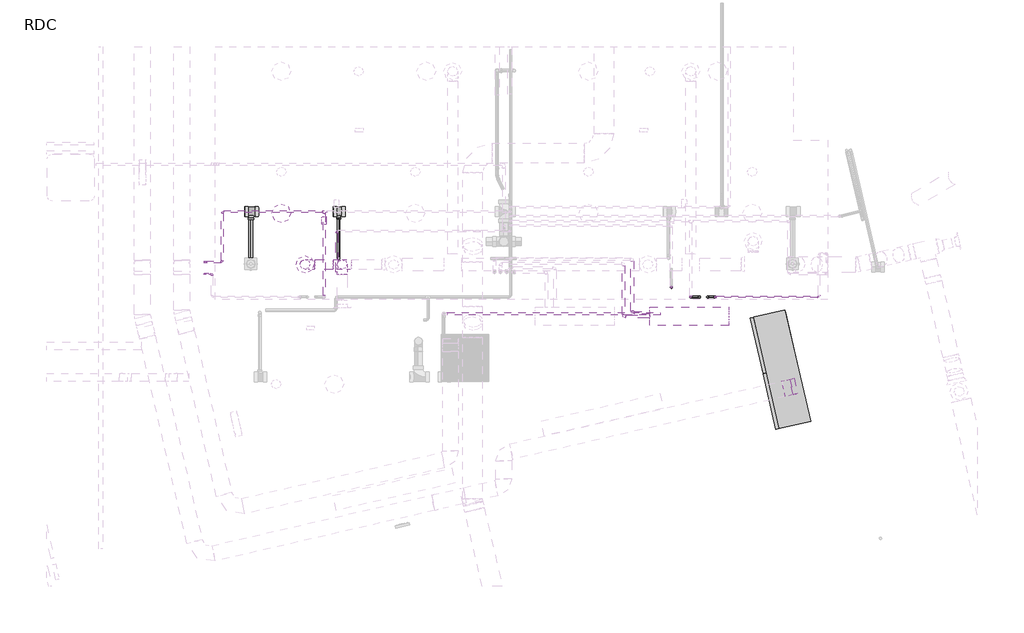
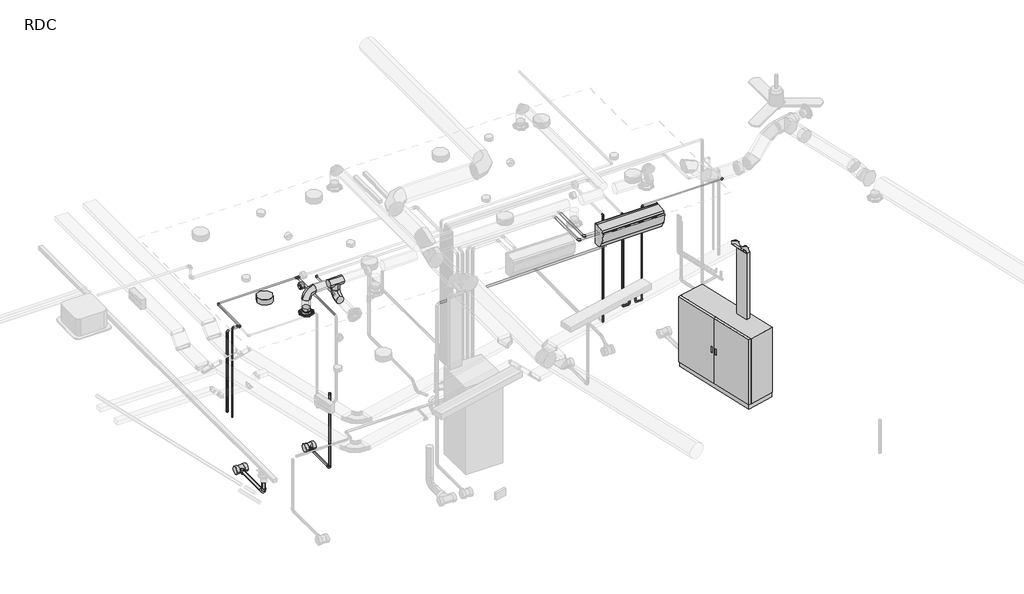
# One storey, part 10 of 15: 25 pipe segments, 22 pipe fittings, 3 duct fittings, 3 duct segments, 2 proxies, 1 air terminal, 1 alarm, 1 cable carrier fitting, 2 other elements.
"""IFC4 building model written with IfcOpenShell, lengths in millimetres."""

from ifc_helpers import new_model, si_unit, point, frame, frame_2d, origin, place, context, project, spatial, polyline, circle_curve, trimmed, segment, composite_curve, outline, extrude, transform, mapped, element, save
from ifc_brep_helpers import plane_surface, cylinder_surface, advanced_brep
from components import air_terminal_c84e8fe3, alarm_ff25f4bb, mechanical_equipment_eb6c6a63, electrical_equipment_138fd20d, standaard_62cd015a, coude_circulaire_1_d_f5cf0ac1, coude_circulaire_1_d_0da3bdd5, standard_07d20943, ai_luminaire_spot_downlight_a3_0014797d, coude_ff_pvc_u_standard_220f42cd, coude_ff_pvc_u_standard_9e274030, standard_a6eaa7f7, standard_e98945bd, standard_6e5039bf, standard_2678962f, standard_7de1e32a, standard_f2ba753d

model = new_model("IFC4")

# Units and contexts
model_context = context("Model", 3, world=origin())
ifc_project = project(units=[si_unit("LENGTHUNIT", "METRE", prefix="MILLI")], contexts=[model_context])

# Site, building, storey
site = spatial("IfcSite", under=ifc_project)
building = spatial("IfcBuilding", under=site)
storey = spatial("IfcBuildingStorey", under=building, Name="RDC", Elevation=0.0)

# Air terminal
placement = place(None, origin())
air_terminal_shape = air_terminal_c84e8fe3(model_context)
element("IfcAirTerminal", 1, ObjectType="AI_Bouche aération_Circulaire Extraction : ø125 mm", at=placement, inside=storey, context=model_context, shape_type="MappedRepresentation", body=[
    mapped(air_terminal_shape, transform((33320.6398841, 4264.9881845, 2500.0), x_axis=(2.293832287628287e-08, 0.9999999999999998, 0.0), y_axis=(-0.9999999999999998, 2.293832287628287e-08, 0.0), z_axis=(0.0, 0.0, 1.0))),
])

# Alarm
alarm_shape = alarm_ff25f4bb(model_context)
element("IfcAlarm", 2, ObjectType="AI_Incendie_Alarme incendie : Flash", at=placement, inside=storey, context=model_context, shape_type="MappedRepresentation", body=[
    mapped(alarm_shape, transform((33590.6545821, 4823.4725079, 2529.5993522), x_axis=(0.0, 1.0, 0.0), y_axis=(-1.0, 0.0, 0.0), z_axis=(0.0, 0.0, 1.0))),
])

# Proxies
mechanical_equipment_shape = mechanical_equipment_eb6c6a63(model_context)
element("IfcBuildingElementProxy", 3, Name="AI_Eqpmt genie clim_Unité intérieure de climatisation : AI_Eqpmt genie clim_Unité intérieure de climatisation", ObjectType="AI_Eqpmt genie clim_Unité intérieure de climatisation : AI_Eqpmt genie clim_Unité intérieure de climatisation", at=placement, inside=storey, context=model_context, shape_type="MappedRepresentation", body=[
    mapped(mechanical_equipment_shape, transform((38200.0243806, 3720.4697131, 2480.0), x_axis=(-1.0, 0.0, 0.0), y_axis=(0.0, -1.0, 0.0), z_axis=(0.0, 0.0, 1.0))),
])
electrical_equipment_shape = electrical_equipment_138fd20d(model_context)
element("IfcBuildingElementProxy", 4, Name="AI_Eqpmt elec_Armoire électrique LOD400 : TGBT 1200 x 450 x 1450", ObjectType="AI_Eqpmt elec_Armoire électrique LOD400 : TGBT 1200 x 450 x 1450", at=placement, inside=storey, context=model_context, shape_type="MappedRepresentation", body=[
    mapped(electrical_equipment_shape, transform((39578.1065587, 2978.0289437, 0.0), x_axis=(0.22495105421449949, -0.9743700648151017, 0.0), y_axis=(0.9743700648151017, 0.22495105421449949, 0.0), z_axis=(0.0, 0.0, 1.0))),
])

# Cable carrier fitting
standaard_shape = standaard_62cd015a(model_context)
element("IfcCableCarrierFitting", 5, ObjectType="AI_Raccord cdc_Coude desencdant : standaard", at=placement, inside=storey, context=model_context, shape_type="MappedRepresentation", body=[
    mapped(standaard_shape, transform((39527.0890044, 2713.5252654, 2470.0), x_axis=(0.9743711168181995, 0.22494649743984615, 0.0), y_axis=(0.0, 0.0, -1.0000000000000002), z_axis=(-0.22494649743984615, 0.9743711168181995, 0.0))),
])

# Cable carrier segment
element("IfcCableCarrierSegment", 6, ObjectType="Par défaut", at=placement, inside=storey, context=model_context, shape_type="SweptSolid", body=[
    extrude(outline(polyline([(39520.3525207, 2609.3397588), (39475.3632212, 2804.2139822), (39533.8254882, 2817.710772), (39578.8147877, 2622.8365487), (39520.3525207, 2609.3397588)])), frame((0.0, 0.0, 1200.0), z_axis=(0.0, 0.0, 1.0), x_axis=(1.0, 0.0, 0.0)), (0.0, 0.0, 1.0), 1139.0),
])

# Duct fittings
coude_circulaire_1_d_shape = coude_circulaire_1_d_f5cf0ac1(model_context)
element("IfcDuctFitting", 7, ObjectType="Coude circulaire : 1 D", at=placement, inside=storey, context=model_context, shape_type="MappedRepresentation", body=[
    mapped(coude_circulaire_1_d_shape, transform((33320.6398841, 4264.9881845, 2860.8181307), x_axis=(-0.9999999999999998, 2.2938323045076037e-08, 0.0), y_axis=(0.0, 0.0, -1.0), z_axis=(-2.2938323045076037e-08, -0.9999999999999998, 0.0))),
])
coude_circulaire_1_d_2_shape = coude_circulaire_1_d_0da3bdd5(model_context)
element("IfcDuctFitting", 8, ObjectType="Coude circulaire : 1 D", at=placement, inside=storey, context=model_context, shape_type="MappedRepresentation", body=[
    mapped(coude_circulaire_1_d_2_shape, transform((33792.8114631, 4263.3728908, 2618.4665859), x_axis=(-1.1090538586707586e-08, 1.0, 0.0), y_axis=(0.0, 0.0, 1.0000000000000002), z_axis=(1.0, 1.1090538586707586e-08, 0.0))),
])
standard_shape = standard_07d20943(model_context)
element("IfcDuctFitting", 9, ObjectType="Té circulaire : Standard", at=placement, inside=storey, context=model_context, shape_type="MappedRepresentation", body=[
    mapped(standard_shape, transform((33792.8114631, 4263.3728885, 2860.8181307), x_axis=(-0.9999999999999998, 2.293832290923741e-08, 0.0), y_axis=(0.0, 0.0, 1.0), z_axis=(2.293832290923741e-08, 0.9999999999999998, 0.0))),
])

# Duct segments
element("IfcDuctSegment", 10, ObjectType="Circulaire - Té", at=placement, inside=storey, context=model_context, shape_type="SweptSolid", body=[
    extrude(outline(composite_curve([segment(trimmed(circle_curve(frame_2d((33320.6398841, 4264.9881845)), 62.5), [point((33320.6398841, 4202.4881845))], [point((33258.1398841, 4264.9881845))], False, "CARTESIAN"), True, "CONTINUOUS"), segment(trimmed(circle_curve(frame_2d((33320.6398841, 4264.9881845)), 62.5), [point((33258.1398841, 4264.9881845))], [point((33320.6398841, 4327.4881845))], False, "CARTESIAN"), True, "CONTINUOUS"), segment(trimmed(circle_curve(frame_2d((33320.6398841, 4264.9881845)), 62.5), [point((33320.6398841, 4327.4881845))], [point((33383.1398841, 4264.9881845))], False, "CARTESIAN"), True, "CONTINUOUS"), segment(trimmed(circle_curve(frame_2d((33320.6398841, 4264.9881845)), 62.5), [point((33383.1398841, 4264.9881845))], [point((33320.6398841, 4202.4881845))], False, "CARTESIAN"), True, "CONTINUOUS")], self_intersect=False)), frame((0.0, 0.0, 2586.6), z_axis=(0.0, 0.0, 1.0), x_axis=(1.0, 0.0, 0.0)), (0.0, 0.0, 1.0), 149.2181307),
])
element("IfcDuctSegment", 11, ObjectType="Circulaire - Té", at=placement, inside=storey, context=model_context, shape_type="SweptSolid", body=[
    extrude(outline(composite_curve([segment(trimmed(circle_curve(frame_2d((0.0, 62.5)), 62.5), [point((62.5, 62.5))], [point((0.0, 0.0))], False, "CARTESIAN"), True, "CONTINUOUS"), segment(trimmed(circle_curve(frame_2d((0.0, 62.5)), 62.5), [point((0.0, 0.0))], [point((-62.5, 62.5))], False, "CARTESIAN"), True, "CONTINUOUS"), segment(trimmed(circle_curve(frame_2d((0.0, 62.5)), 62.5), [point((-62.5, 62.5))], [point((0.0, 125.0))], False, "CARTESIAN"), True, "CONTINUOUS"), segment(trimmed(circle_curve(frame_2d((0.0, 62.5)), 62.5), [point((0.0, 125.0))], [point((62.5, 62.5))], False, "CARTESIAN"), True, "CONTINUOUS")], self_intersect=False)), frame((33680.3114631, 4263.3728911, 2923.3181307), z_axis=(-0.9999763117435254, 0.006883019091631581, 0.0), x_axis=(0.006883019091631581, 0.9999763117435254, 0.0)), (0.0, 0.0, 1.0), 234.6771381),
])
element("IfcDuctSegment", 12, ObjectType="Circulaire - Té", at=placement, inside=storey, context=model_context, shape_type="SweptSolid", body=[
    extrude(outline(composite_curve([segment(trimmed(circle_curve(frame_2d((0.0, 62.5)), 62.5), [point((-62.5, 62.5))], [point((0.0, 125.0))], False, "CARTESIAN"), True, "CONTINUOUS"), segment(trimmed(circle_curve(frame_2d((0.0, 62.5)), 62.5), [point((0.0, 125.0))], [point((62.5, 62.5))], False, "CARTESIAN"), True, "CONTINUOUS"), segment(trimmed(circle_curve(frame_2d((0.0, 62.5)), 62.5), [point((62.5, 62.5))], [point((0.0, 0.0))], False, "CARTESIAN"), True, "CONTINUOUS"), segment(trimmed(circle_curve(frame_2d((0.0, 62.5)), 62.5), [point((0.0, 0.0))], [point((-62.5, 62.5))], False, "CARTESIAN"), True, "CONTINUOUS")], self_intersect=False)), frame((33792.8114631, 4200.8728886, 2743.466587), z_axis=(0.0, -1.719403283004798e-08, 0.9999999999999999), x_axis=(1.0, 0.0, 0.0)), (0.0, 0.0, 1.0), 4.8515426),
])

# Light fixture
ai_luminaire_spot_downlight_a3_shape = ai_luminaire_spot_downlight_a3_0014797d(model_context)
element("IfcLightFixture", 13, ObjectType="AI_Luminaire_Spot Downlight : A4", at=placement, inside=storey, context=model_context, shape_type="MappedRepresentation", body=[
    mapped(ai_luminaire_spot_downlight_a3_shape, transform((33019.4683012, 4914.7404412, 2500.0), x_axis=(1.0, 0.0, 0.0), y_axis=(0.0, 1.0, 0.0), z_axis=(0.0, 0.0, 1.0))),
])

# Pipe fittings
coude_ff_pvc_u_standard_shape = coude_ff_pvc_u_standard_220f42cd(model_context)
element("IfcPipeFitting", 14, ObjectType="Coude - FF - PVC-U : Standard", at=placement, inside=storey, context=model_context, shape_type="MappedRepresentation", body=[
    mapped(coude_ff_pvc_u_standard_shape, transform((32632.2955586, 4271.5849216, -359.4993917), x_axis=(0.0, 0.0, -1.0), y_axis=(0.0, 1.0, 0.0), z_axis=(1.0, 0.0, 0.0))),
])
coude_ff_pvc_u_standard_2_shape = coude_ff_pvc_u_standard_9e274030(model_context)
element("IfcPipeFitting", 15, ObjectType="Coude - FF - PVC-U : Standard", at=placement, inside=storey, context=model_context, shape_type="MappedRepresentation", body=[
    mapped(coude_ff_pvc_u_standard_2_shape, transform((33746.3092078, 4344.9881643, -371.5415484), x_axis=(0.0, 0.0, -1.0), y_axis=(0.0, 1.0, 0.0), z_axis=(1.0, 0.0, 0.0))),
])
standard_2_shape = standard_a6eaa7f7(model_context)
element("IfcPipeFitting", 16, ObjectType="EG-RCAN Té sanitaire de réduction - PVC - Nom. 40 - DWV : Standard", at=placement, inside=storey, context=model_context, shape_type="MappedRepresentation", body=[
    mapped(standard_2_shape, transform((32632.2955586, 4937.4862635, -359.2606712), x_axis=(-0.9999500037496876, 0.0, 0.00999950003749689), y_axis=(3.5845648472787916e-06, 0.9999999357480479, 0.0003584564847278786), z_axis=(-0.009999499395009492, 0.0003584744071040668, -0.9999499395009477))),
])
standard_3_shape = standard_e98945bd(model_context)
element("IfcPipeFitting", 17, ObjectType="EG-RCAN Té sanitaire de réduction - PVC - Nom. 40 - DWV : Standard", at=placement, inside=storey, context=model_context, shape_type="MappedRepresentation", body=[
    mapped(standard_3_shape, transform((33746.3092078, 4937.4862635, -370.4008077), x_axis=(-0.9999500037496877, 0.0, 0.009999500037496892), y_axis=(2.2870558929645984e-05, 0.9999973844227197, 0.0022870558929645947), z_axis=(-0.009999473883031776, 0.002287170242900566, -0.9999473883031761))),
])
standard_4_shape = standard_6e5039bf(model_context)
element("IfcPipeFitting", 18, ObjectType="Coude - Générique1 : Standard", at=placement, inside=storey, context=model_context, shape_type="MappedRepresentation", body=[
    mapped(standard_4_shape, transform((37366.5117815, 3601.8712184, 2717.0893087), x_axis=(0.0, -1.0, 0.0), y_axis=(1.0, 0.0, 0.0), z_axis=(0.0, 0.0, 1.0))),
])
element("IfcPipeFitting", 19, ObjectType="Coude - Générique1 : Standard", at=placement, inside=storey, context=model_context, shape_type="MappedRepresentation", body=[
    mapped(standard_4_shape, transform((37476.714497, 3650.3210599, 2717.0893087), x_axis=(0.0, -1.0, 0.0), y_axis=(1.0, 0.0, 0.0), z_axis=(0.0, 0.0, 1.0))),
])
standard_5_shape = standard_2678962f(model_context)
element("IfcPipeFitting", 20, ObjectType="Coude - Générique1 : Standard", at=placement, inside=storey, context=model_context, shape_type="MappedRepresentation", body=[
    mapped(standard_5_shape, transform((38430.8207025, 3851.8297552, 1134.9792289), x_axis=(0.0, 0.0, -1.0), y_axis=(0.9999999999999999, 1.4342639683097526e-08, 0.0), z_axis=(1.4342639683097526e-08, -0.9999999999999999, 0.0))),
])
element("IfcPipeFitting", 21, ObjectType="Coude - Générique1 : Standard", at=placement, inside=storey, context=model_context, shape_type="MappedRepresentation", body=[
    mapped(standard_5_shape, transform((38533.2371, 3851.8297567, 1134.9792289), x_axis=(0.9999999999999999, 1.434263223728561e-08, 0.0), y_axis=(0.0, 0.0, 1.0), z_axis=(1.434263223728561e-08, -0.9999999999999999, 0.0))),
])
element("IfcPipeFitting", 22, ObjectType="Coude - Générique1 : Standard", at=placement, inside=storey, context=model_context, shape_type="MappedRepresentation", body=[
    mapped(standard_5_shape, transform((38533.2371, 3851.8297444, 2752.0893087), x_axis=(0.0, 0.0, 1.0), y_axis=(0.9999999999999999, 1.4342638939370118e-08, 0.0), z_axis=(-1.4342638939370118e-08, 0.9999999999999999, 0.0))),
])
element("IfcPipeFitting", 23, ObjectType="Coude - Générique1 : Standard", at=placement, inside=storey, context=model_context, shape_type="MappedRepresentation", body=[
    mapped(standard_5_shape, transform((39850.5474047, 3851.829763, 2752.0893087), x_axis=(1.0, 0.0, 0.0), y_axis=(0.0, 1.0, 0.0), z_axis=(0.0, 0.0, 1.0))),
])
element("IfcPipeFitting", 24, ObjectType="Coude - Générique1 : Standard", at=placement, inside=storey, context=model_context, shape_type="MappedRepresentation", body=[
    mapped(standard_5_shape, transform((38330.8207025, 3851.8297552, 1134.9792289), x_axis=(0.0, 0.0, -1.0), y_axis=(-0.9999999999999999, -1.4342639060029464e-08, 0.0), z_axis=(-1.4342639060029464e-08, 0.9999999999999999, 0.0))),
])
element("IfcPipeFitting", 25, ObjectType="Coude - Générique1 : Standard", at=placement, inside=storey, context=model_context, shape_type="MappedRepresentation", body=[
    mapped(standard_5_shape, transform((38221.11266, 3851.8297537, 1134.9792289), x_axis=(-1.0, -1.4342619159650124e-08, 0.0), y_axis=(0.0, 0.0, 1.0000000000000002), z_axis=(-1.4342619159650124e-08, 1.0, 0.0))),
])
element("IfcPipeFitting", 26, ObjectType="Coude - Générique1 : Standard", at=placement, inside=storey, context=model_context, shape_type="MappedRepresentation", body=[
    mapped(standard_5_shape, transform((38221.11266, 3851.8297537, 2717.0893087), x_axis=(0.0, 0.0, 1.0), y_axis=(0.0, 1.0, 0.0), z_axis=(-1.0, 0.0, 0.0))),
])
element("IfcPipeFitting", 27, ObjectType="Coude - Générique1 : Standard", at=placement, inside=storey, context=model_context, shape_type="MappedRepresentation", body=[
    mapped(standard_5_shape, transform((32050.6077873, 4294.7651365, 2602.0893087), x_axis=(0.0, 0.0, 1.0), y_axis=(1.0, 0.0, 0.0), z_axis=(0.0, 1.0, 0.0))),
])
element("IfcPipeFitting", 28, ObjectType="Coude - Générique1 : Standard", at=placement, inside=storey, context=model_context, shape_type="MappedRepresentation", body=[
    mapped(standard_5_shape, transform((32270.7236859, 4294.7651365, 2602.0893087), x_axis=(1.0, 0.0, 0.0), y_axis=(0.0, 1.0, 0.0), z_axis=(0.0, 0.0, 1.0))),
])
element("IfcPipeFitting", 29, ObjectType="Coude - Générique1 : Standard", at=placement, inside=storey, context=model_context, shape_type="MappedRepresentation", body=[
    mapped(standard_5_shape, transform((32270.7236859, 4936.881818, 2602.0893087), x_axis=(-1.0, 0.0, 0.0), y_axis=(0.0, -1.0, 0.0), z_axis=(0.0, 0.0, 1.0))),
])
element("IfcPipeFitting", 30, ObjectType="Coude - Générique1 : Standard", at=placement, inside=storey, context=model_context, shape_type="MappedRepresentation", body=[
    mapped(standard_5_shape, transform((33723.0029013, 4689.8766571, 2717.0893087), x_axis=(-1.0, 0.0, 0.0), y_axis=(0.0, -1.0, 0.0), z_axis=(0.0, 0.0, 1.0))),
])
element("IfcPipeFitting", 31, ObjectType="Coude - Générique1 : Standard", at=placement, inside=storey, context=model_context, shape_type="MappedRepresentation", body=[
    mapped(standard_5_shape, transform((37974.3285887, 3973.9655949, 2717.0893087), x_axis=(0.0, -1.0, 0.0), y_axis=(0.0, 0.0, -1.0), z_axis=(1.0, 0.0, 0.0))),
])
element("IfcPipeFitting", 32, ObjectType="Coude - Générique1 : Standard", at=placement, inside=storey, context=model_context, shape_type="MappedRepresentation", body=[
    mapped(standard_5_shape, transform((37974.3285887, 3973.9655949, 877.0893087), x_axis=(0.0, 0.0, -1.0), y_axis=(0.0, 1.0, 0.0), z_axis=(1.0, 0.0, 0.0))),
])
standard_6_shape = standard_7de1e32a(model_context)
element("IfcPipeFitting", 33, ObjectType="Coude - Générique1 : Standard", at=placement, inside=storey, context=model_context, shape_type="MappedRepresentation", body=[
    mapped(standard_6_shape, transform((32141.8155376, 4144.1242646, 2752.0893087), x_axis=(1.0, 0.0, 0.0), y_axis=(0.0, 1.0, 0.0), z_axis=(0.0, 0.0, 1.0))),
])
element("IfcPipeFitting", 34, ObjectType="Coude - Générique1 : Standard", at=placement, inside=storey, context=model_context, shape_type="MappedRepresentation", body=[
    mapped(standard_6_shape, transform((32048.3188586, 4144.1242646, 2752.0893087), x_axis=(0.0, 0.0, 1.0), y_axis=(-1.0, 0.0, 0.0), z_axis=(0.0, -1.0, 0.0))),
])
standard_7_shape = standard_f2ba753d(model_context)
element("IfcPipeFitting", 35, ObjectType="Té - Générique : Standard", at=placement, inside=storey, context=model_context, shape_type="MappedRepresentation", body=[
    mapped(standard_7_shape, transform((33565.538418, 4936.881818, 2602.0893087), x_axis=(-1.0, 0.0, 0.0), y_axis=(0.0, 1.0, 0.0), z_axis=(0.0, 0.0, -1.0))),
])

# Pipe segments
element("IfcPipeSegment", 36, ObjectType="Cuivre - Té", at=placement, inside=storey, context=model_context, shape_type="SweptSolid", body=[
    extrude(outline(composite_curve([segment(trimmed(circle_curve(frame_2d((38430.8207025, 3851.8297552)), 9.525), [point((38440.3457025, 3851.8297552))], [point((38430.8207025, 3842.3047552))], False, "CARTESIAN"), True, "CONTINUOUS"), segment(trimmed(circle_curve(frame_2d((38430.8207025, 3851.8297552)), 9.525), [point((38430.8207025, 3842.3047552))], [point((38421.2957025, 3851.8297552))], False, "CARTESIAN"), True, "CONTINUOUS"), segment(trimmed(circle_curve(frame_2d((38430.8207025, 3851.8297552)), 9.525), [point((38421.2957025, 3851.8297552))], [point((38430.8207025, 3861.3547552))], False, "CARTESIAN"), True, "CONTINUOUS"), segment(trimmed(circle_curve(frame_2d((38430.8207025, 3851.8297552)), 9.525), [point((38430.8207025, 3861.3547552))], [point((38440.3457025, 3851.8297552))], False, "CARTESIAN"), True, "CONTINUOUS")], self_intersect=False)), frame((0.0, 0.0, 1153.8909477), z_axis=(0.0, 0.0, 1.0), x_axis=(1.0, 0.0, 0.0)), (0.0, 0.0, 1.0), 46.1090523),
])
element("IfcPipeSegment", 37, ObjectType="Cuivre - Té", at=placement, inside=storey, context=model_context, shape_type="SweptSolid", body=[
    extrude(outline(composite_curve([segment(trimmed(circle_curve(frame_2d((0.0, 9.525)), 9.525), [point((-9.525, 9.525))], [point((0.0, 19.05))], False, "CARTESIAN"), True, "CONTINUOUS"), segment(trimmed(circle_curve(frame_2d((0.0, 9.525)), 9.525), [point((0.0, 19.05))], [point((9.525, 9.525))], False, "CARTESIAN"), True, "CONTINUOUS"), segment(trimmed(circle_curve(frame_2d((0.0, 9.525)), 9.525), [point((9.525, 9.525))], [point((0.0, 0.0))], False, "CARTESIAN"), True, "CONTINUOUS"), segment(trimmed(circle_curve(frame_2d((0.0, 9.525)), 9.525), [point((0.0, 0.0))], [point((-9.525, 9.525))], False, "CARTESIAN"), True, "CONTINUOUS")], self_intersect=False)), frame((38449.7324212, 3851.8297555, 1125.4542289), z_axis=(1.0, 1.4342646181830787e-08, 0.0), x_axis=(-1.4342646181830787e-08, 1.0, 0.0)), (0.0, 0.0, 1.0), 64.59296),
])
element("IfcPipeSegment", 38, ObjectType="Cuivre - Té", at=placement, inside=storey, context=model_context, shape_type="AdvancedBrep", body=[
    advanced_brep(
    [(38523.7121, 3851.8297567, 1153.8909477), (38533.2371, 3861.3547567, 1153.8909478), (38542.7621, 3851.8297567, 1153.8909477), (38533.2371, 3842.3047567, 1153.8909476), (38523.7121, 3851.8297444, 2733.17759), (38533.2371, 3842.3047444, 2733.1775899), (38542.7621, 3851.8297444, 2733.17759), (38533.2371, 3861.3547444, 2733.1775901)],
    [
        (0, 1, circle_curve(frame((38533.2371, 3851.8297567, 1153.8909477), z_axis=(0.0, 0.0, -1.0), x_axis=(-1.0, 0.0, 0.0)), 9.525)),
        (1, 2, circle_curve(frame((38533.2371, 3851.8297567, 1153.8909478), z_axis=(0.0, 0.0, -1.0), x_axis=(-1.0, 0.0, 0.0)), 9.525)),
        (2, 3, circle_curve(frame((38533.2371, 3851.8297567, 1153.8909477), z_axis=(0.0, 0.0, -1.0), x_axis=(-1.0, 0.0, 0.0)), 9.525)),
        (3, 0, circle_curve(frame((38533.2371, 3851.8297567, 1153.8909476), z_axis=(0.0, 0.0, -1.0), x_axis=(-1.0, 0.0, 0.0)), 9.525)),
        (4, 5, circle_curve(frame((38533.2371, 3851.8297567, 2733.17759), z_axis=(0.0, 0.0, 1.0), x_axis=(-1.0, 0.0, 0.0)), 9.525)),
        (5, 6, circle_curve(frame((38533.2371, 3851.8297567, 2733.1775899), z_axis=(0.0, 0.0, 1.0), x_axis=(-1.0, 0.0, 0.0)), 9.5250123)),
        (6, 7, circle_curve(frame((38533.2371, 3851.8297567, 2733.17759), z_axis=(0.0, 0.0, 1.0), x_axis=(-1.0, 0.0, 0.0)), 9.525)),
        (7, 4, circle_curve(frame((38533.2371, 3851.8297567, 2733.1775901), z_axis=(0.0, 0.0, 1.0), x_axis=(-1.0, 0.0, 0.0)), 9.5249877)),
        (0, 4),
        (7, 1),
        (6, 2),
        (5, 3),
    ],
    [
        plane_surface(frame((38533.2371, 3842.3047567, 1153.8909476), z_axis=(0.0, 7.817682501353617e-09, -1.0), x_axis=(1.0, 0.0, 0.0))),
        plane_surface(frame((38533.2371, 3842.3047444, 2733.1775899), z_axis=(0.0, -7.81767539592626e-09, 1.0), x_axis=(1.0, 0.0, 0.0))),
        cylinder_surface(frame((38533.2371, 3851.8297567, 1153.8909477), z_axis=(0.0, 0.0, -1.0), x_axis=(-1.0, 0.0, 0.0)), 9.525),
    ],
    [
        (0, [[1, 2, 3, 4]]),
        (1, [[5, 6, 7, 8]]),
        (2, [[-1, 9, -8, 10]]),
        (2, [[-2, -10, -7, 11]]),
        (2, [[-3, -11, -6, 12]]),
        (2, [[-4, -12, -5, -9]]),
    ],
),
])
element("IfcPipeSegment", 39, ObjectType="Cuivre - Té", at=placement, inside=storey, context=model_context, shape_type="SweptSolid", body=[
    extrude(outline(composite_curve([segment(trimmed(circle_curve(frame_2d((0.0, 9.525)), 9.525), [point((-9.525, 9.525))], [point((0.0, 19.05))], False, "CARTESIAN"), True, "CONTINUOUS"), segment(trimmed(circle_curve(frame_2d((0.0, 9.525)), 9.525), [point((0.0, 19.05))], [point((9.525, 9.525))], False, "CARTESIAN"), True, "CONTINUOUS"), segment(trimmed(circle_curve(frame_2d((0.0, 9.525)), 9.525), [point((9.525, 9.525))], [point((0.0, 0.0))], False, "CARTESIAN"), True, "CONTINUOUS"), segment(trimmed(circle_curve(frame_2d((0.0, 9.525)), 9.525), [point((0.0, 0.0))], [point((-9.525, 9.525))], False, "CARTESIAN"), True, "CONTINUOUS")], self_intersect=False)), frame((38552.1488188, 3851.8297446, 2742.5643087), z_axis=(1.0, 1.4342631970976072e-08, 0.0), x_axis=(-1.4342631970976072e-08, 1.0, 0.0)), (0.0, 0.0, 1.0), 1279.4868672),
])
element("IfcPipeSegment", 40, ObjectType="Cuivre - Té", at=placement, inside=storey, context=model_context, shape_type="SweptSolid", body=[
    extrude(outline(composite_curve([segment(trimmed(circle_curve(frame_2d((4144.1242646, 2752.0893087)), 9.525), [point((4153.6492646, 2752.0893087))], [point((4144.1242646, 2742.5643087))], False, "CARTESIAN"), True, "CONTINUOUS"), segment(trimmed(circle_curve(frame_2d((4144.1242646, 2752.0893087)), 9.525), [point((4144.1242646, 2742.5643087))], [point((4134.5992646, 2752.0893087))], False, "CARTESIAN"), True, "CONTINUOUS"), segment(trimmed(circle_curve(frame_2d((4144.1242646, 2752.0893087)), 9.525), [point((4134.5992646, 2752.0893087))], [point((4144.1242646, 2761.6143087))], False, "CARTESIAN"), True, "CONTINUOUS"), segment(trimmed(circle_curve(frame_2d((4144.1242646, 2752.0893087)), 9.525), [point((4144.1242646, 2761.6143087))], [point((4153.6492646, 2752.0893087))], False, "CARTESIAN"), True, "CONTINUOUS")], self_intersect=False)), frame((32067.2305774, 0.0, 0.0), z_axis=(1.0, 0.0, 0.0), x_axis=(0.0, 1.0, 0.0)), (0.0, 0.0, 1.0), 55.6732415),
])
element("IfcPipeSegment", 41, ObjectType="Cuivre - Té", at=placement, inside=storey, context=model_context, shape_type="SweptSolid", body=[
    extrude(outline(composite_curve([segment(trimmed(circle_curve(frame_2d((32048.3188586, 4144.1242646)), 9.525), [point((32057.8438586, 4144.1242646))], [point((32048.3188586, 4134.5992646))], False, "CARTESIAN"), True, "CONTINUOUS"), segment(trimmed(circle_curve(frame_2d((32048.3188586, 4144.1242646)), 9.525), [point((32048.3188586, 4134.5992646))], [point((32038.7938586, 4144.1242646))], False, "CARTESIAN"), True, "CONTINUOUS"), segment(trimmed(circle_curve(frame_2d((32048.3188586, 4144.1242646)), 9.525), [point((32038.7938586, 4144.1242646))], [point((32048.3188586, 4153.6492646))], False, "CARTESIAN"), True, "CONTINUOUS"), segment(trimmed(circle_curve(frame_2d((32048.3188586, 4144.1242646)), 9.525), [point((32048.3188586, 4153.6492646))], [point((32057.8438586, 4144.1242646))], False, "CARTESIAN"), True, "CONTINUOUS")], self_intersect=False)), frame((0.0, 0.0, 1217.0893087), z_axis=(0.0, 0.0, 1.0), x_axis=(1.0, 0.0, 0.0)), (0.0, 0.0, 1.0), 1516.0882813),
])
element("IfcPipeSegment", 42, ObjectType="PVC Pression HTA", at=placement, inside=storey, context=model_context, shape_type="SweptSolid", body=[
    extrude(outline(composite_curve([segment(trimmed(circle_curve(frame_2d((38330.8207025, 3851.8297552)), 13.335), [point((38344.1557025, 3851.8297552))], [point((38330.8207025, 3838.4947552))], False, "CARTESIAN"), True, "CONTINUOUS"), segment(trimmed(circle_curve(frame_2d((38330.8207025, 3851.8297552)), 13.335), [point((38330.8207025, 3838.4947552))], [point((38317.4857025, 3851.8297552))], False, "CARTESIAN"), True, "CONTINUOUS"), segment(trimmed(circle_curve(frame_2d((38330.8207025, 3851.8297552)), 13.335), [point((38317.4857025, 3851.8297552))], [point((38330.8207025, 3865.1647552))], False, "CARTESIAN"), True, "CONTINUOUS"), segment(trimmed(circle_curve(frame_2d((38330.8207025, 3851.8297552)), 13.335), [point((38330.8207025, 3865.1647552))], [point((38344.1557025, 3851.8297552))], False, "CARTESIAN"), True, "CONTINUOUS")], self_intersect=False)), frame((0.0, 0.0, 1153.8909477), z_axis=(0.0, 0.0, 1.0), x_axis=(1.0, 0.0, 0.0)), (0.0, 0.0, 1.0), 46.1285836),
])
element("IfcPipeSegment", 43, ObjectType="PVC Pression HTA", at=placement, inside=storey, context=model_context, shape_type="SweptSolid", body=[
    extrude(outline(composite_curve([segment(trimmed(circle_curve(frame_2d((0.0, -13.335)), 13.335), [point((-13.335, -13.335))], [point((0.0, 0.0))], False, "CARTESIAN"), True, "CONTINUOUS"), segment(trimmed(circle_curve(frame_2d((0.0, -13.335)), 13.335), [point((0.0, 0.0))], [point((13.335, -13.335))], False, "CARTESIAN"), True, "CONTINUOUS"), segment(trimmed(circle_curve(frame_2d((0.0, -13.335)), 13.335), [point((13.335, -13.335))], [point((0.0, -26.67))], False, "CARTESIAN"), True, "CONTINUOUS"), segment(trimmed(circle_curve(frame_2d((0.0, -13.335)), 13.335), [point((0.0, -26.67))], [point((-13.335, -13.335))], False, "CARTESIAN"), True, "CONTINUOUS")], self_intersect=False)), frame((38240.0243787, 3851.8297539, 1121.6442289), z_axis=(1.0, 1.4342646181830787e-08, 0.0), x_axis=(1.4342646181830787e-08, -1.0, 0.0)), (0.0, 0.0, 1.0), 71.884605),
])
element("IfcPipeSegment", 44, ObjectType="PVC Pression HTA", at=placement, inside=storey, context=model_context, shape_type="SweptSolid", body=[
    extrude(outline(composite_curve([segment(trimmed(circle_curve(frame_2d((38221.11266, 3851.8297537)), 13.335), [point((38207.77766, 3851.8297537))], [point((38221.11266, 3865.1647537))], False, "CARTESIAN"), True, "CONTINUOUS"), segment(trimmed(circle_curve(frame_2d((38221.11266, 3851.8297537)), 13.335), [point((38221.11266, 3865.1647537))], [point((38234.44766, 3851.8297537))], False, "CARTESIAN"), True, "CONTINUOUS"), segment(trimmed(circle_curve(frame_2d((38221.11266, 3851.8297537)), 13.335), [point((38234.44766, 3851.8297537))], [point((38221.11266, 3838.4947537))], False, "CARTESIAN"), True, "CONTINUOUS"), segment(trimmed(circle_curve(frame_2d((38221.11266, 3851.8297537)), 13.335), [point((38221.11266, 3838.4947537))], [point((38207.77766, 3851.8297537))], False, "CARTESIAN"), True, "CONTINUOUS")], self_intersect=False)), frame((0.0, 0.0, 1153.8909477), z_axis=(0.0, 0.0, 1.0), x_axis=(1.0, 0.0, 0.0)), (0.0, 0.0, 1.0), 1544.2866423),
])
element("IfcPipeSegment", 45, ObjectType="PVC Pression HTA", at=placement, inside=storey, context=model_context, shape_type="SweptSolid", body=[
    extrude(outline(composite_curve([segment(trimmed(circle_curve(frame_2d((2602.0893087, 33565.538418)), 13.335), [point((2602.0893087, 33578.873418))], [point((2615.4243087, 33565.538418))], False, "CARTESIAN"), True, "CONTINUOUS"), segment(trimmed(circle_curve(frame_2d((2602.0893087, 33565.538418)), 13.335), [point((2615.4243087, 33565.538418))], [point((2602.0893087, 33552.203418))], False, "CARTESIAN"), True, "CONTINUOUS"), segment(trimmed(circle_curve(frame_2d((2602.0893087, 33565.538418)), 13.335), [point((2602.0893087, 33552.203418))], [point((2588.7543087, 33565.538418))], False, "CARTESIAN"), True, "CONTINUOUS"), segment(trimmed(circle_curve(frame_2d((2602.0893087, 33565.538418)), 13.335), [point((2588.7543087, 33565.538418))], [point((2602.0893087, 33578.873418))], False, "CARTESIAN"), True, "CONTINUOUS")], self_intersect=False)), frame((0.0, 3870.6402107, 0.0), z_axis=(0.0, 1.0, 0.0), x_axis=(0.0, 0.0, 1.0)), (0.0, 0.0, 1.0), 1037.2416073),
])
element("IfcPipeSegment", 46, ObjectType="PVC Pression HTA", at=placement, inside=storey, context=model_context, shape_type="SweptSolid", body=[
    extrude(outline(composite_curve([segment(trimmed(circle_curve(frame_2d((32050.6077873, 4294.7651365)), 13.335), [point((32063.9427873, 4294.7651365))], [point((32050.6077873, 4281.4301365))], False, "CARTESIAN"), True, "CONTINUOUS"), segment(trimmed(circle_curve(frame_2d((32050.6077873, 4294.7651365)), 13.335), [point((32050.6077873, 4281.4301365))], [point((32037.2727873, 4294.7651365))], False, "CARTESIAN"), True, "CONTINUOUS"), segment(trimmed(circle_curve(frame_2d((32050.6077873, 4294.7651365)), 13.335), [point((32037.2727873, 4294.7651365))], [point((32050.6077873, 4308.1001365))], False, "CARTESIAN"), True, "CONTINUOUS"), segment(trimmed(circle_curve(frame_2d((32050.6077873, 4294.7651365)), 13.335), [point((32050.6077873, 4308.1001365))], [point((32063.9427873, 4294.7651365))], False, "CARTESIAN"), True, "CONTINUOUS")], self_intersect=False)), frame((0.0, 0.0, 1217.0893087), z_axis=(0.0, 0.0, 1.0), x_axis=(1.0, 0.0, 0.0)), (0.0, 0.0, 1.0), 1366.0882812),
])
element("IfcPipeSegment", 47, ObjectType="PVC Pression HTA", at=placement, inside=storey, context=model_context, shape_type="SweptSolid", body=[
    extrude(outline(composite_curve([segment(trimmed(circle_curve(frame_2d((4294.7651365, 2602.0893087)), 13.335), [point((4281.4301365, 2602.0893087))], [point((4294.7651365, 2615.4243087))], False, "CARTESIAN"), True, "CONTINUOUS"), segment(trimmed(circle_curve(frame_2d((4294.7651365, 2602.0893087)), 13.335), [point((4294.7651365, 2615.4243087))], [point((4308.1001365, 2602.0893087))], False, "CARTESIAN"), True, "CONTINUOUS"), segment(trimmed(circle_curve(frame_2d((4294.7651365, 2602.0893087)), 13.335), [point((4308.1001365, 2602.0893087))], [point((4294.7651365, 2588.7543087))], False, "CARTESIAN"), True, "CONTINUOUS"), segment(trimmed(circle_curve(frame_2d((4294.7651365, 2602.0893087)), 13.335), [point((4294.7651365, 2588.7543087))], [point((4281.4301365, 2602.0893087))], False, "CARTESIAN"), True, "CONTINUOUS")], self_intersect=False)), frame((32069.5195061, 0.0, 0.0), z_axis=(1.0, 0.0, 0.0), x_axis=(0.0, 1.0, 0.0)), (0.0, 0.0, 1.0), 182.2924611),
])
element("IfcPipeSegment", 48, ObjectType="PVC Pression HTA", at=placement, inside=storey, context=model_context, shape_type="SweptSolid", body=[
    extrude(outline(composite_curve([segment(trimmed(circle_curve(frame_2d((2602.0893087, 32270.7236859)), 13.335), [point((2602.0893087, 32284.0586859))], [point((2615.4243087, 32270.7236859))], False, "CARTESIAN"), True, "CONTINUOUS"), segment(trimmed(circle_curve(frame_2d((2602.0893087, 32270.7236859)), 13.335), [point((2615.4243087, 32270.7236859))], [point((2602.0893087, 32257.3886859))], False, "CARTESIAN"), True, "CONTINUOUS"), segment(trimmed(circle_curve(frame_2d((2602.0893087, 32270.7236859)), 13.335), [point((2602.0893087, 32257.3886859))], [point((2588.7543087, 32270.7236859))], False, "CARTESIAN"), True, "CONTINUOUS"), segment(trimmed(circle_curve(frame_2d((2602.0893087, 32270.7236859)), 13.335), [point((2588.7543087, 32270.7236859))], [point((2602.0893087, 32284.0586859))], False, "CARTESIAN"), True, "CONTINUOUS")], self_intersect=False)), frame((0.0, 4313.6768552, 0.0), z_axis=(0.0, 1.0, 0.0), x_axis=(0.0, 0.0, 1.0)), (0.0, 0.0, 1.0), 604.293244),
])
element("IfcPipeSegment", 49, ObjectType="PVC Pression HTA", at=placement, inside=storey, context=model_context, shape_type="SweptSolid", body=[
    extrude(outline(composite_curve([segment(trimmed(circle_curve(frame_2d((4936.881818, 2602.0893087)), 13.335), [point((4923.546818, 2602.0893087))], [point((4936.881818, 2615.4243087))], False, "CARTESIAN"), True, "CONTINUOUS"), segment(trimmed(circle_curve(frame_2d((4936.881818, 2602.0893087)), 13.335), [point((4936.881818, 2615.4243087))], [point((4950.216818, 2602.0893087))], False, "CARTESIAN"), True, "CONTINUOUS"), segment(trimmed(circle_curve(frame_2d((4936.881818, 2602.0893087)), 13.335), [point((4950.216818, 2602.0893087))], [point((4936.881818, 2588.7543087))], False, "CARTESIAN"), True, "CONTINUOUS"), segment(trimmed(circle_curve(frame_2d((4936.881818, 2602.0893087)), 13.335), [point((4936.881818, 2588.7543087))], [point((4923.546818, 2602.0893087))], False, "CARTESIAN"), True, "CONTINUOUS")], self_intersect=False)), frame((32289.6354047, 0.0, 0.0), z_axis=(1.0, 0.0, 0.0), x_axis=(0.0, 1.0, 0.0)), (0.0, 0.0, 1.0), 1246.9030134),
])
element("IfcPipeSegment", 50, ObjectType="Acier - Té", at=placement, inside=storey, context=model_context, shape_type="SweptSolid", body=[
    extrude(outline(composite_curve([segment(trimmed(circle_curve(frame_2d((2717.0893087, 37366.5117815)), 16.7005), [point((2717.0893087, 37349.8112815))], [point((2700.3888087, 37366.5117815))], False, "CARTESIAN"), True, "CONTINUOUS"), segment(trimmed(circle_curve(frame_2d((2717.0893087, 37366.5117815)), 16.7005), [point((2700.3888087, 37366.5117815))], [point((2717.0893087, 37383.2122815))], False, "CARTESIAN"), True, "CONTINUOUS"), segment(trimmed(circle_curve(frame_2d((2717.0893087, 37366.5117815)), 16.7005), [point((2717.0893087, 37383.2122815))], [point((2733.7898087, 37366.5117815))], False, "CARTESIAN"), True, "CONTINUOUS"), segment(trimmed(circle_curve(frame_2d((2717.0893087, 37366.5117815)), 16.7005), [point((2733.7898087, 37366.5117815))], [point((2717.0893087, 37349.8112815))], False, "CARTESIAN"), True, "CONTINUOUS")], self_intersect=False)), frame((0.0, 3626.8712184, 0.0), z_axis=(0.0, 1.0, 0.0), x_axis=(0.0, 0.0, 1.0)), (0.0, 0.0, 1.0), 626.5106947),
])
element("IfcPipeSegment", 51, ObjectType="Acier - Té", at=placement, inside=storey, context=model_context, shape_type="SweptSolid", body=[
    extrude(outline(composite_curve([segment(trimmed(circle_curve(frame_2d((3601.8712184, 2717.0893087)), 16.7005), [point((3585.1707184, 2717.0893087))], [point((3601.8712184, 2733.7898087))], False, "CARTESIAN"), True, "CONTINUOUS"), segment(trimmed(circle_curve(frame_2d((3601.8712184, 2717.0893087)), 16.7005), [point((3601.8712184, 2733.7898087))], [point((3618.5717184, 2717.0893087))], False, "CARTESIAN"), True, "CONTINUOUS"), segment(trimmed(circle_curve(frame_2d((3601.8712184, 2717.0893087)), 16.7005), [point((3618.5717184, 2717.0893087))], [point((3601.8712184, 2700.3888087))], False, "CARTESIAN"), True, "CONTINUOUS"), segment(trimmed(circle_curve(frame_2d((3601.8712184, 2717.0893087)), 16.7005), [point((3601.8712184, 2700.3888087))], [point((3585.1707184, 2717.0893087))], False, "CARTESIAN"), True, "CONTINUOUS")], self_intersect=False)), frame((37391.5117815, 0.0, 0.0), z_axis=(1.0, 0.0, 0.0), x_axis=(0.0, 1.0, 0.0)), (0.0, 0.0, 1.0), 305.2027155),
])
element("IfcPipeSegment", 52, ObjectType="Acier - Té", at=placement, inside=storey, context=model_context, shape_type="SweptSolid", body=[
    extrude(outline(composite_curve([segment(trimmed(circle_curve(frame_2d((2717.0893087, 37476.714497)), 16.7005), [point((2717.0893087, 37460.013997))], [point((2700.3888087, 37476.714497))], False, "CARTESIAN"), True, "CONTINUOUS"), segment(trimmed(circle_curve(frame_2d((2717.0893087, 37476.714497)), 16.7005), [point((2700.3888087, 37476.714497))], [point((2717.0893087, 37493.414997))], False, "CARTESIAN"), True, "CONTINUOUS"), segment(trimmed(circle_curve(frame_2d((2717.0893087, 37476.714497)), 16.7005), [point((2717.0893087, 37493.414997))], [point((2733.7898087, 37476.714497))], False, "CARTESIAN"), True, "CONTINUOUS"), segment(trimmed(circle_curve(frame_2d((2717.0893087, 37476.714497)), 16.7005), [point((2733.7898087, 37476.714497))], [point((2717.0893087, 37460.013997))], False, "CARTESIAN"), True, "CONTINUOUS")], self_intersect=False)), frame((0.0, 3675.3210599, 0.0), z_axis=(0.0, 1.0, 0.0), x_axis=(0.0, 0.0, 1.0)), (0.0, 0.0, 1.0), 633.0518316),
])
element("IfcPipeSegment", 53, ObjectType="Acier - Té", at=placement, inside=storey, context=model_context, shape_type="SweptSolid", body=[
    extrude(outline(composite_curve([segment(trimmed(circle_curve(frame_2d((3650.3210599, 2717.0893087)), 16.7005), [point((3633.6205599, 2717.0893087))], [point((3650.3210599, 2733.7898087))], False, "CARTESIAN"), True, "CONTINUOUS"), segment(trimmed(circle_curve(frame_2d((3650.3210599, 2717.0893087)), 16.7005), [point((3650.3210599, 2733.7898087))], [point((3667.0215599, 2717.0893087))], False, "CARTESIAN"), True, "CONTINUOUS"), segment(trimmed(circle_curve(frame_2d((3650.3210599, 2717.0893087)), 16.7005), [point((3667.0215599, 2717.0893087))], [point((3650.3210599, 2700.3888087))], False, "CARTESIAN"), True, "CONTINUOUS"), segment(trimmed(circle_curve(frame_2d((3650.3210599, 2717.0893087)), 16.7005), [point((3650.3210599, 2700.3888087))], [point((3633.6205599, 2717.0893087))], False, "CARTESIAN"), True, "CONTINUOUS")], self_intersect=False)), frame((37501.714497, 0.0, 0.0), z_axis=(1.0, 0.0, 0.0), x_axis=(0.0, 1.0, 0.0)), (0.0, 0.0, 1.0), 195.0),
])
element("IfcPipeSegment", 54, ObjectType="PVC Pression HTA", at=placement, inside=storey, context=model_context, shape_type="SweptSolid", body=[
    extrude(outline(composite_curve([segment(trimmed(circle_curve(frame_2d((2717.0893087, 33723.0029013)), 13.335), [point((2717.0893087, 33709.6679013))], [point((2703.7543087, 33723.0029013))], False, "CARTESIAN"), True, "CONTINUOUS"), segment(trimmed(circle_curve(frame_2d((2717.0893087, 33723.0029013)), 13.335), [point((2703.7543087, 33723.0029013))], [point((2717.0893087, 33736.3379013))], False, "CARTESIAN"), True, "CONTINUOUS"), segment(trimmed(circle_curve(frame_2d((2717.0893087, 33723.0029013)), 13.335), [point((2717.0893087, 33736.3379013))], [point((2730.4243087, 33723.0029013))], False, "CARTESIAN"), True, "CONTINUOUS"), segment(trimmed(circle_curve(frame_2d((2717.0893087, 33723.0029013)), 13.335), [point((2730.4243087, 33723.0029013))], [point((2717.0893087, 33709.6679013))], False, "CARTESIAN"), True, "CONTINUOUS")], self_intersect=False)), frame((0.0, 4164.8766571, 0.0), z_axis=(0.0, 1.0, 0.0), x_axis=(0.0, 0.0, 1.0)), (0.0, 0.0, 1.0), 506.0882812),
])
element("IfcPipeSegment", 55, ObjectType="PVC Pression HTA", at=placement, inside=storey, context=model_context, shape_type="SweptSolid", body=[
    extrude(outline(composite_curve([segment(trimmed(circle_curve(frame_2d((37974.3285887, 3973.9655949)), 13.335), [point((37987.6635887, 3973.9655949))], [point((37974.3285887, 3960.6305949))], False, "CARTESIAN"), True, "CONTINUOUS"), segment(trimmed(circle_curve(frame_2d((37974.3285887, 3973.9655949)), 13.335), [point((37974.3285887, 3960.6305949))], [point((37960.9935887, 3973.9655949))], False, "CARTESIAN"), True, "CONTINUOUS"), segment(trimmed(circle_curve(frame_2d((37974.3285887, 3973.9655949)), 13.335), [point((37960.9935887, 3973.9655949))], [point((37974.3285887, 3987.3005949))], False, "CARTESIAN"), True, "CONTINUOUS"), segment(trimmed(circle_curve(frame_2d((37974.3285887, 3973.9655949)), 13.335), [point((37974.3285887, 3987.3005949))], [point((37987.6635887, 3973.9655949))], False, "CARTESIAN"), True, "CONTINUOUS")], self_intersect=False)), frame((0.0, 0.0, 896.0010275), z_axis=(0.0, 0.0, 1.0), x_axis=(1.0, 0.0, 0.0)), (0.0, 0.0, 1.0), 1802.1765625),
])
element("IfcPipeSegment", 56, ObjectType="PVC", at=placement, inside=storey, context=model_context, shape_type="SweptSolid", body=[
    extrude(outline(composite_curve([segment(trimmed(circle_curve(frame_2d((0.0, -25.0)), 25.0), [point((-25.0, -25.0))], [point((1e-07, 0.0))], False, "CARTESIAN"), True, "CONTINUOUS"), segment(trimmed(circle_curve(frame_2d((0.0, -25.0)), 25.0), [point((1e-07, 0.0))], [point((25.0, -25.0))], False, "CARTESIAN"), True, "CONTINUOUS"), segment(trimmed(circle_curve(frame_2d((0.0, -25.0)), 25.0), [point((25.0, -25.0))], [point((0.0, -50.0))], False, "CARTESIAN"), True, "CONTINUOUS"), segment(trimmed(circle_curve(frame_2d((0.0, -25.0)), 25.0), [point((0.0, -50.0))], [point((-25.0, -25.0))], False, "CARTESIAN"), True, "CONTINUOUS")], self_intersect=False)), frame((32632.2955586, 4246.5849216, -288.4992347), z_axis=(-0.00017849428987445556, 6.280503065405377e-06, 0.9999999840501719), x_axis=(-0.9999999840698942, -1.121033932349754e-09, -0.00017849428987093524)), (0.0, 0.0, 1.0), 112.0371985),
])
element("IfcPipeSegment", 57, ObjectType="PVC", at=placement, inside=storey, context=model_context, shape_type="SweptSolid", body=[
    extrude(outline(composite_curve([segment(trimmed(circle_curve(frame_2d((0.0, -16.0)), 16.0), [point((0.0, 0.0))], [point((16.0, -16.0))], False, "CARTESIAN"), True, "CONTINUOUS"), segment(trimmed(circle_curve(frame_2d((0.0, -16.0)), 16.0), [point((16.0, -16.0))], [point((0.0, -32.0))], False, "CARTESIAN"), True, "CONTINUOUS"), segment(trimmed(circle_curve(frame_2d((0.0, -16.0)), 16.0), [point((0.0, -32.0))], [point((-16.0, -16.0))], False, "CARTESIAN"), True, "CONTINUOUS"), segment(trimmed(circle_curve(frame_2d((0.0, -16.0)), 16.0), [point((-16.0, -16.0))], [point((0.0, 0.0))], False, "CARTESIAN"), True, "CONTINUOUS")], self_intersect=False)), frame((35130.0756791, 3654.1434665, 2402.97423), z_axis=(0.9998875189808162, 0.0, 0.014998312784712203), x_axis=(0.014998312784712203, 0.0, -0.9998875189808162)), (0.0, 0.0, 1.0), 2704.8778783),
])
element("IfcPipeSegment", 58, ObjectType="PVC", at=placement, inside=storey, context=model_context, shape_type="SweptSolid", body=[
    extrude(outline(composite_curve([segment(trimmed(circle_curve(frame_2d((0.0, 25.0)), 25.0), [point((0.0, 50.0))], [point((25.0, 25.0))], False, "CARTESIAN"), True, "CONTINUOUS"), segment(trimmed(circle_curve(frame_2d((0.0, 25.0)), 25.0), [point((25.0, 25.0))], [point((0.0, 0.0))], False, "CARTESIAN"), True, "CONTINUOUS"), segment(trimmed(circle_curve(frame_2d((0.0, 25.0)), 25.0), [point((0.0, 0.0))], [point((-25.0, 25.0))], False, "CARTESIAN"), True, "CONTINUOUS"), segment(trimmed(circle_curve(frame_2d((0.0, 25.0)), 25.0), [point((-25.0, 25.0))], [point((0.0, 50.0))], False, "CARTESIAN"), True, "CONTINUOUS")], self_intersect=False)), frame((32607.2955586, 4342.584917, -359.4739388), z_axis=(0.0, 0.9999999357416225, 0.000358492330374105), x_axis=(0.0, -0.000358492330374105, 0.9999999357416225)), (0.0, 0.0, 1.0), 491.7011847),
])
element("IfcPipeSegment", 59, ObjectType="PVC", at=placement, inside=storey, context=model_context, shape_type="SweptSolid", body=[
    extrude(outline(composite_curve([segment(trimmed(circle_curve(frame_2d((33746.3092078, 4344.9881643)), 16.0), [point((33762.3092078, 4344.9881643))], [point((33746.3092078, 4328.9881643))], False, "CARTESIAN"), True, "CONTINUOUS"), segment(trimmed(circle_curve(frame_2d((33746.3092078, 4344.9881643)), 16.0), [point((33746.3092078, 4328.9881643))], [point((33730.3092078, 4344.9881643))], False, "CARTESIAN"), True, "CONTINUOUS"), segment(trimmed(circle_curve(frame_2d((33746.3092078, 4344.9881643)), 16.0), [point((33730.3092078, 4344.9881643))], [point((33746.3092078, 4360.9881643))], False, "CARTESIAN"), True, "CONTINUOUS"), segment(trimmed(circle_curve(frame_2d((33746.3092078, 4344.9881643)), 16.0), [point((33746.3092078, 4360.9881643))], [point((33762.3092078, 4344.9881643))], False, "CARTESIAN"), True, "CONTINUOUS")], self_intersect=False)), frame((0.0, 0.0, -323.5415484), z_axis=(0.0, 0.0, 1.0), x_axis=(1.0, 0.0, 0.0)), (0.0, 0.0, 1.0), 1228.5415484),
])
element("IfcPipeSegment", 60, ObjectType="PVC", at=placement, inside=storey, context=model_context, shape_type="SweptSolid", body=[
    extrude(outline(composite_curve([segment(trimmed(circle_curve(frame_2d((0.0, 16.0000001)), 16.0), [point((16.0, 16.0000001))], [point((0.0, 0.0))], False, "CARTESIAN"), True, "CONTINUOUS"), segment(trimmed(circle_curve(frame_2d((0.0, 16.0000001)), 16.0), [point((0.0, 0.0))], [point((-16.0, 16.0000001))], False, "CARTESIAN"), True, "CONTINUOUS"), segment(trimmed(circle_curve(frame_2d((0.0, 16.0000001)), 16.0), [point((-16.0, 16.0000001))], [point((0.0, 32.0))], False, "CARTESIAN"), True, "CONTINUOUS"), segment(trimmed(circle_curve(frame_2d((0.0, 16.0000001)), 16.0), [point((0.0, 32.0))], [point((16.0, 16.0000001))], False, "CARTESIAN"), True, "CONTINUOUS")], self_intersect=False)), frame((33746.3092078, 4392.9590555, -355.431785), z_axis=(0.0, 0.9999983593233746, 0.001811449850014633), x_axis=(1.0, 0.0, 0.0)), (0.0, 0.0, 1.0), 450.7312409),
])

save(model, "model.ifc")
